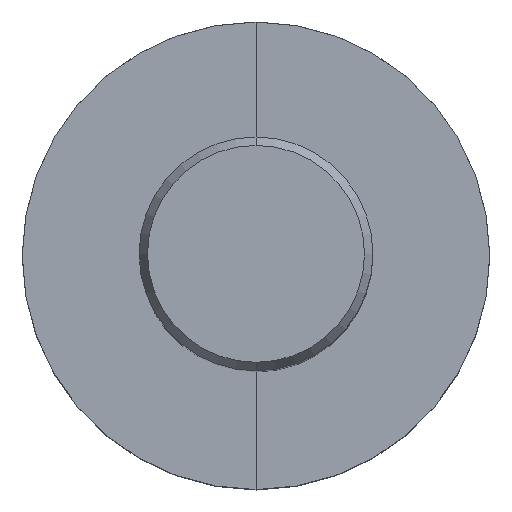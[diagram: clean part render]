
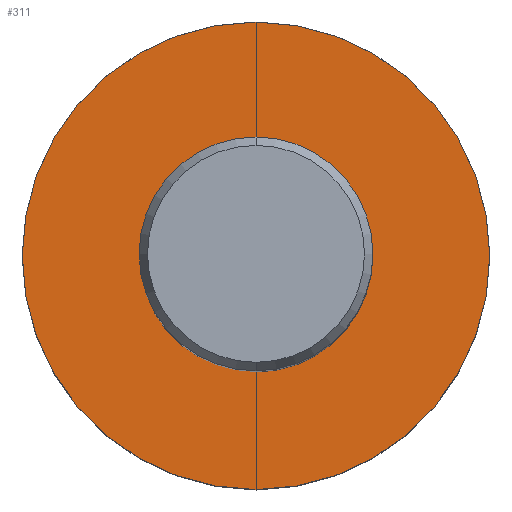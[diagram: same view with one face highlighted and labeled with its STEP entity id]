
A CAD part, top view. The second image highlights one B-rep face of the part: STEP entity #311.
In plain terms, the highlighted planar face has unit normal (0, 0, 1).
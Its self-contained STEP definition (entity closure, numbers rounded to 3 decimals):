
#271=EDGE_CURVE('',#477,#449,#665,.T.);
#311=ADVANCED_FACE('',(#711,#712),#713,.T.);
#357=VERTEX_POINT('',#762);
#379=EDGE_CURVE('',#357,#391,#788,.T.);
#391=VERTEX_POINT('',#800);
#449=VERTEX_POINT('',#863);
#477=VERTEX_POINT('',#892);
#519=EDGE_CURVE('',#449,#477,#937,.T.);
#531=EDGE_CURVE('',#391,#357,#950,.T.);
#665=CIRCLE('',#1128,15.995);
#711=FACE_OUTER_BOUND('',#1255,.T.);
#712=FACE_BOUND('',#1256,.T.);
#713=PLANE('',#1257);
#762=CARTESIAN_POINT('',(0.0,7.5,-76.0));
#788=CIRCLE('',#1417,7.5);
#800=CARTESIAN_POINT('',(0.,-7.5,-76.0));
#863=CARTESIAN_POINT('',(0.0,15.995,-76.0));
#892=CARTESIAN_POINT('',(0.,-15.995,-76.0));
#937=CIRCLE('',#1663,15.995);
#950=CIRCLE('',#1683,7.5);
#1128=AXIS2_PLACEMENT_3D('',#1919,#1920,#1921);
#1255=EDGE_LOOP('',(#1983,#1984));
#1256=EDGE_LOOP('',(#1985,#1986));
#1257=AXIS2_PLACEMENT_3D('',#1987,#1988,#1989);
#1417=AXIS2_PLACEMENT_3D('',#2061,#2062,#2063);
#1663=AXIS2_PLACEMENT_3D('',#2206,#2207,#2208);
#1683=AXIS2_PLACEMENT_3D('',#2220,#2221,#2222);
#1919=CARTESIAN_POINT('',(0.0,0.0,-76.0));
#1920=DIRECTION('',(0.0,0.0,-1.0));
#1921=DIRECTION('',(0.0,1.0,0.0));
#1983=ORIENTED_EDGE('',*,*,#519,.F.);
#1984=ORIENTED_EDGE('',*,*,#271,.F.);
#1985=ORIENTED_EDGE('',*,*,#379,.T.);
#1986=ORIENTED_EDGE('',*,*,#531,.T.);
#1987=CARTESIAN_POINT('',(0.0,11.747,-76.0));
#1988=DIRECTION('',(-0.0,0.0,1.0));
#1989=DIRECTION('',(0.0,-1.0,0.0));
#2061=CARTESIAN_POINT('',(0.0,0.0,-76.0));
#2062=DIRECTION('',(0.0,0.0,-1.0));
#2063=DIRECTION('',(0.0,1.0,0.0));
#2206=CARTESIAN_POINT('',(0.0,0.0,-76.0));
#2207=DIRECTION('',(0.0,0.0,-1.0));
#2208=DIRECTION('',(0.0,1.0,0.0));
#2220=CARTESIAN_POINT('',(0.0,0.0,-76.0));
#2221=DIRECTION('',(0.0,0.0,-1.0));
#2222=DIRECTION('',(0.0,1.0,0.0));
